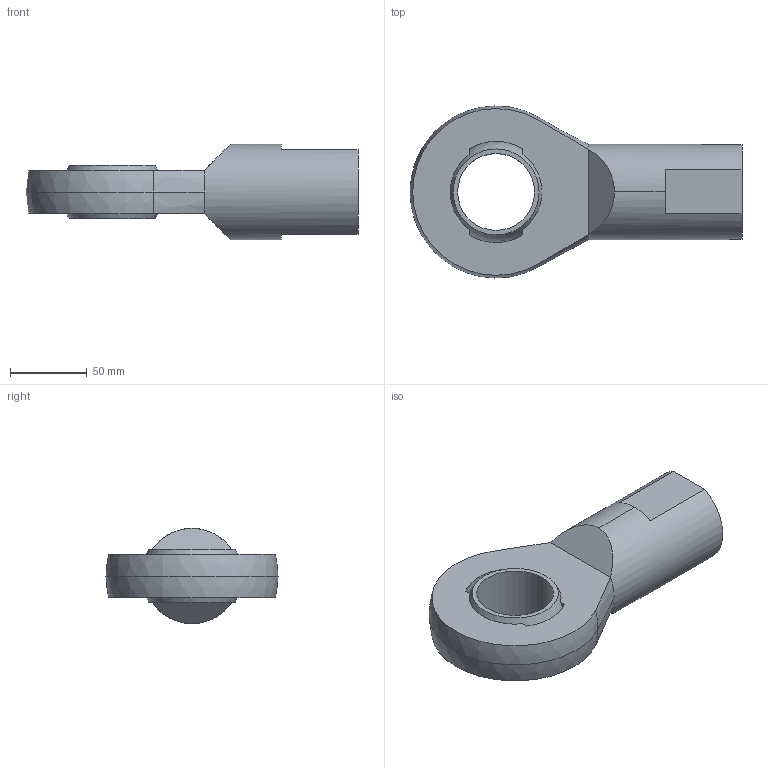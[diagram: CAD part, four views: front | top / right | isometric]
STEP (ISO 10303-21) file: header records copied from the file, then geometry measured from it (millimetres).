
FILE_DESCRIPTION (( 'STEP AP203' ), '1' );
FILE_NAME ('65880.W0251.step', '2014-02-06T18:33:50', ( 'User' ), ( '' ), 'SwSTEP 2.0', 'SolidWorks 2009', '' );
FILE_SCHEMA (( 'CONFIG_CONTROL_DESIGN' ));
Length unit declared in the file: millimetre
Products named in the file (3): Part1_65880.W0251; 65880.W0251; Part2_65880.W0251
Assembly tree (2 placements, depth 2):
  65880.W0251
    Part1_65880.W0251
    Part2_65880.W0251
Bounding box: 216 x 111.98 x 62 mm (x, y, z)
Volume: 410109 mm3; surface area: 74273.3 mm2
Topology: 2 solids, 2 shells, 45 faces, 108 edges, 67 vertices
Faces by surface type: plane 20, cylinder 10, sphere 8, cone 7
Entity records: 1632 total; most frequent: CARTESIAN_POINT 261, DIRECTION 253, ORIENTED_EDGE 208, AXIS2_PLACEMENT_3D 107, EDGE_CURVE 104, VERTEX_POINT 67, CIRCLE 57, EDGE_LOOP 53
